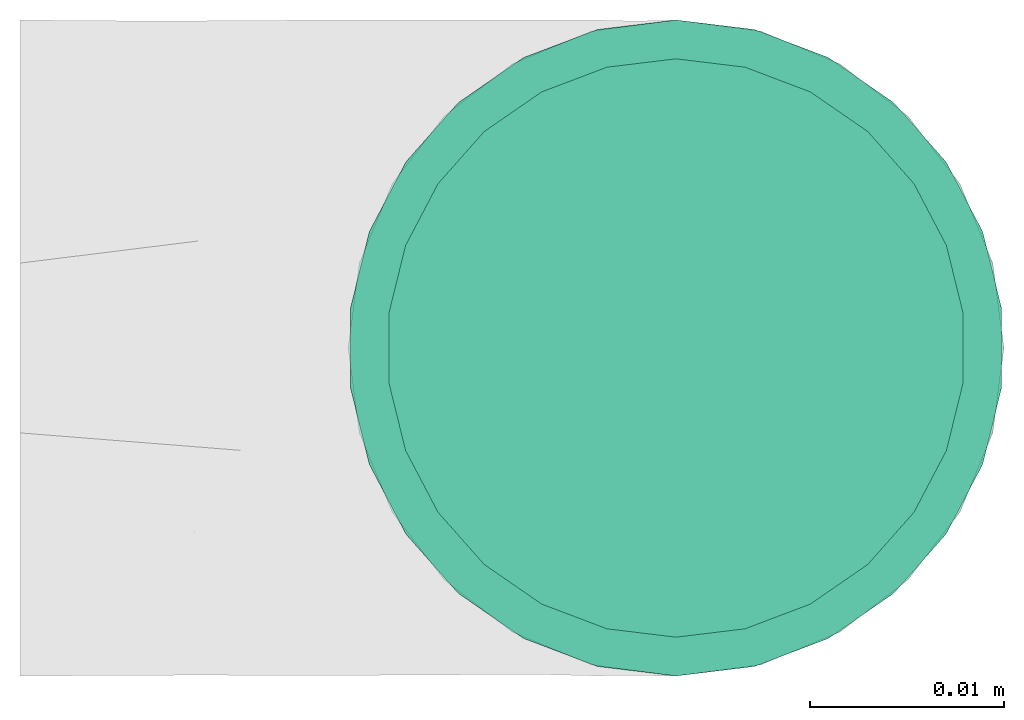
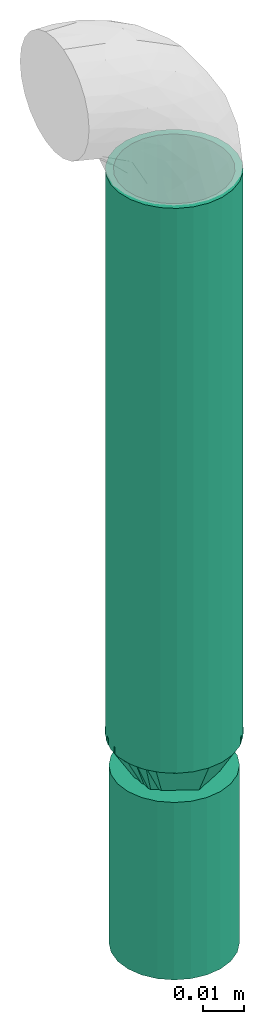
# One storey, part 1 of 2: 1 flow fitting, 1 flow segment, 1 flow terminal.
"""IFC2X3 building model written with IfcOpenShell, lengths in millimetres."""

from ifc_helpers import new_model, entity, si_unit, converted_unit, derived_unit, direction, frame, origin_with_axes, origin_2d_with_axis, place, context, subcontext, project, spatial, hollow_circle, extrude, open_shell, surface_model, source, transform, mapped, type_object, element, save


model = new_model("IFC2X3")

# Units and contexts
model_context = context("Model", 3, precision=0.01, world=frame((0.0, 4.29681676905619e-09, 0.0)), true_north=direction((4.01073788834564e-13, 1.0)))
plan_context = context("Plan", 3, precision=0.01, world=frame((0.0, 4.29681676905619e-09, 0.0)), true_north=direction((4.01073788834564e-13, 1.0)))
body_context = subcontext(model_context, "Body", "Model", "MODEL_VIEW")
ifc_project = project(units=[converted_unit("PLANEANGLEUNIT", "DEGREE", entity("IfcPositiveLengthMeasure", 0.0174532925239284), si_unit("PLANEANGLEUNIT", "RADIAN"), dimensions=[0, 0, 0, 0, 0, 0, 0]), si_unit("AREAUNIT", "SQUARE_METRE"), si_unit("LENGTHUNIT", "METRE", prefix="MILLI"), si_unit("MASSUNIT", "GRAM", prefix="KILO"), si_unit("POWERUNIT", "WATT"), si_unit("PRESSUREUNIT", "PASCAL"), si_unit("FORCEUNIT", "NEWTON", prefix="KILO"), si_unit("ELECTRICVOLTAGEUNIT", "VOLT"), si_unit("ELECTRICCURRENTUNIT", "AMPERE"), si_unit("THERMODYNAMICTEMPERATUREUNIT", "DEGREE_CELSIUS"), si_unit("TIMEUNIT", "SECOND"), si_unit("VOLUMEUNIT", "CUBIC_METRE"), derived_unit("LINEARVELOCITYUNIT", [(si_unit("LENGTHUNIT", "METRE"), 1), (si_unit("TIMEUNIT", "SECOND"), -1)]), derived_unit("VOLUMETRICFLOWRATEUNIT", [(si_unit("VOLUMEUNIT", "CUBIC_METRE"), 1), (si_unit("TIMEUNIT", "SECOND"), -1)]), derived_unit("THERMALTRANSMITTANCEUNIT", [(si_unit("POWERUNIT", "WATT"), 1), (si_unit("THERMODYNAMICTEMPERATUREUNIT", "KELVIN"), -1), (si_unit("AREAUNIT", "SQUARE_METRE"), -1)]), derived_unit("SOUNDPRESSUREUNIT", [(si_unit("PRESSUREUNIT", "PASCAL"), 1)])], contexts=[model_context, plan_context])

# Site, building, storey
site_placement = place(None, frame((0.0, -4.29681676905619e-09, 0.0), z_axis=(0.0, 0.0, 1.0), x_axis=(1.0, 0.0, 0.0)))
site = spatial("IfcSite", under=ifc_project, at=site_placement, CompositionType="ELEMENT")
building_placement = place(site_placement, frame((0.0, 4.29681676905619e-09, 0.0), z_axis=(0.0, 0.0, 1.0), x_axis=(1.0, 0.0, 0.0)))
building = spatial("IfcBuilding", under=site, at=building_placement, Name="mc-building", CompositionType="ELEMENT")
storey_placement = place(building_placement, frame((0.0, 0.0, 210200.0), z_axis=(0.0, 0.0, 1.0), x_axis=(1.0, 0.0, 0.0)))
storey = spatial("IfcBuildingStorey", under=building, at=storey_placement, Name="Nivå F -0,7", CompositionType="ELEMENT", Elevation=210200.0)

# Flow fitting
pipe_fitting_type = type_object("IfcPipeFittingType", Name="magi_pipe_fe_reducer_centric_short_NOR", PredefinedType="TRANSITION")
shared_shape_1 = source(origin_with_axes(), body_context, "Body", "SurfaceModel", [
    surface_model("IfcShellBasedSurfaceModel", [(14.4, 4.37404, -16.32415), (14.4, 8.45, -14.63583), (14.4, 11.9501, -11.9501), (14.4, -8.45, -14.63583), (14.4, 16.32415, -4.37404), (14.4, 16.32415, 4.37404), (14.4, 14.63583, -8.45), (14.4, 0.0, -16.9), (14.4, -4.37404, -16.32415), (14.4, -11.9501, -11.9501), (14.4, -16.32415, -4.37404), (14.4, -14.63583, -8.45), (14.4, -16.32415, 4.37404), (14.4, 16.9, 0.0), (14.4, 14.63583, 8.45), (14.4, 11.9501, 11.9501), (14.4, 4.37404, 16.32415), (14.4, 8.45, 14.63583), (14.4, 0.0, 16.9), (14.4, -14.63583, 8.45), (14.4, -16.9, 0.0), (14.4, -8.45, 14.63583), (14.4, -11.9501, 11.9501), (14.4, -4.37404, 16.32415), (12.4, 4.37404, 16.32415), (12.4, -14.63583, 8.45), (12.4, 0.0, 16.9), (12.4, 16.32415, 4.37404), (12.4, 8.45, 14.63583), (12.4, 11.9501, 11.9501), (12.4, 14.63583, 8.45), (12.4, -8.45, 14.63583), (12.4, -11.9501, 11.9501), (12.4, -4.37404, 16.32415), (12.4, -16.32415, 4.37404), (12.4, -16.32415, -4.37404), (12.4, -16.9, 0.0), (12.4, -8.45, -14.63583), (12.4, 16.32415, -4.37404), (12.4, 11.9501, -11.9501), (12.4, 14.63583, -8.45), (12.4, 8.45, -14.63583), (12.4, 4.37404, -16.32415), (12.4, 0.0, -16.9), (12.4, -11.9501, -11.9501), (12.4, -14.63583, -8.45), (12.4, -4.37404, -16.32415), (12.4, 16.9, 0.0), (-2.0, 10.33541, 2.76936), (-2.0, 0.0, 10.7), (-2.0, 2.76936, 10.33541), (-2.0, 7.56604, 7.56604), (-2.0, 5.35, 9.26647), (-2.0, 9.26647, 5.35), (-2.0, -9.26647, 5.35), (-2.0, -2.76936, 10.33541), (-2.0, -7.56604, 7.56604), (-2.0, -5.35, 9.26647), (-2.0, -10.33541, 2.76936), (-2.0, -10.33541, -2.76936), (-2.0, -10.7, 0.0), (-2.0, 10.33541, -2.76936), (-2.0, 7.56604, -7.56604), (-2.0, 9.26647, -5.35), (-2.0, 5.35, -9.26647), (-2.0, -5.35, -9.26647), (-2.0, 2.76936, -10.33541), (-2.0, -7.56604, -7.56604), (-2.0, -9.26647, -5.35), (-2.0, 0.0, -10.7), (-2.0, -2.76936, -10.33541), (-2.0, 10.7, 0.0), (0.0, 5.35, -9.26647), (0.0, 0.0, -10.7), (0.0, 2.76936, -10.33541), (0.0, 10.33541, -2.76936), (0.0, 7.56604, -7.56604), (0.0, -5.35, -9.26647), (0.0, 9.26647, -5.35), (0.0, -9.26647, 5.35), (0.0, -2.76936, -10.33541), (0.0, -7.56604, -7.56604), (0.0, -10.33541, -2.76936), (0.0, -9.26647, -5.35), (0.0, 10.33541, 2.76936), (0.0, 10.7, 0.0), (0.0, 9.26647, 5.35), (0.0, 7.56604, 7.56604), (0.0, 2.76936, 10.33541), (0.0, 0.0, 10.7), (0.0, 5.35, 9.26647), (0.0, -10.33541, 2.76936), (0.0, -10.7, 0.0), (0.0, -7.56604, 7.56604), (0.0, -2.76936, 10.33541), (0.0, -5.35, 9.26647), (0.0, -9.3625, -2.31662), (12.4, -14.42505, -5.97505), (12.4, -15.66253, -2.98753), (0.0, 6.6875, -6.94985), (12.4, 8.96258, -13.18758), (0.0, -6.6875, -6.94985), (12.4, -8.96258, -13.18758), (0.0, 9.3625, -2.31662), (12.4, 15.66253, -2.98753), (12.4, 14.42505, -5.97505), (12.4, -5.97505, -14.42505), (12.4, 5.97505, -14.42505), (0.0, 2.675, -9.26647), (12.4, 13.18758, -8.96258), (0.0, -2.675, -9.26647), (12.4, -13.18758, -8.96258), (0.0, -8.025, -4.63324), (12.4, 2.98753, -15.66253), (0.0, 0.0, -9.26647), (12.4, -2.98753, -15.66253), (0.0, 8.025, -4.63324), (0.0, 9.3625, 2.31662), (12.4, 14.42505, 5.97505), (12.4, 15.66253, 2.98753), (0.0, -6.6875, 6.94985), (12.4, -8.96258, 13.18758), (0.0, 6.6875, 6.94985), (12.4, 8.96258, 13.18758), (0.0, -9.3625, 2.31662), (12.4, -15.66253, 2.98753), (12.4, -14.42505, 5.97505), (12.4, 5.97505, 14.42505), (12.4, -5.97505, 14.42505), (0.0, -2.675, 9.26647), (12.4, -13.18758, 8.96258), (0.0, 2.675, 9.26647), (12.4, 13.18758, 8.96258), (0.0, 8.025, 4.63324), (12.4, -2.98753, 15.66253), (0.0, 0.0, 9.26647), (12.4, 2.98753, 15.66253), (0.0, -8.025, 4.63324)], [open_shell([[[0, 1, 2]], [[3, 0, 2]], [[2, 4, 5]], [[4, 2, 6]], [[2, 5, 3]], [[7, 3, 8]], [[7, 0, 3]], [[9, 10, 11]], [[10, 9, 3]], [[3, 12, 10]], [[5, 4, 13]], [[5, 14, 15]], [[5, 15, 16]], [[16, 12, 3]], [[16, 15, 17]], [[12, 16, 18]], [[18, 19, 12]], [[20, 10, 12]], [[19, 21, 22]], [[19, 18, 21]], [[21, 18, 23]], [[3, 5, 16]], [[24, 25, 26]], [[27, 24, 28]], [[29, 30, 27]], [[29, 27, 28]], [[25, 24, 27]], [[31, 25, 32]], [[31, 33, 26]], [[26, 25, 31]], [[34, 25, 27]], [[34, 35, 36]], [[34, 27, 37]], [[27, 38, 39]], [[39, 38, 40]], [[39, 41, 42]], [[37, 27, 39]], [[42, 43, 39]], [[35, 44, 45]], [[44, 35, 37]], [[37, 43, 46]], [[35, 34, 37]], [[39, 43, 37]], [[38, 27, 47]], [[35, 10, 36]], [[45, 11, 35]], [[3, 44, 37]], [[45, 44, 9]], [[8, 37, 46]], [[35, 11, 10]], [[10, 20, 36]], [[8, 3, 37]], [[9, 44, 3]], [[9, 11, 45]], [[7, 8, 46]], [[46, 43, 7]], [[42, 0, 43]], [[41, 1, 42]], [[6, 39, 40]], [[41, 39, 2]], [[4, 40, 38]], [[41, 2, 1]], [[1, 0, 42]], [[13, 4, 38]], [[6, 40, 4]], [[6, 2, 39]], [[47, 13, 38]], [[43, 0, 7]], [[27, 5, 47]], [[30, 14, 27]], [[17, 29, 28]], [[30, 29, 15]], [[16, 28, 24]], [[27, 14, 5]], [[5, 13, 47]], [[16, 17, 28]], [[15, 29, 17]], [[15, 14, 30]], [[18, 16, 24]], [[24, 26, 18]], [[33, 23, 26]], [[31, 21, 33]], [[19, 32, 25]], [[31, 32, 22]], [[12, 25, 34]], [[31, 22, 21]], [[21, 23, 33]], [[20, 12, 34]], [[19, 25, 12]], [[19, 22, 32]], [[36, 20, 34]], [[26, 23, 18]], [[48, 49, 50]], [[51, 50, 52]], [[51, 53, 48]], [[51, 48, 50]], [[49, 48, 54]], [[55, 56, 57]], [[56, 55, 54]], [[58, 59, 60]], [[54, 55, 49]], [[58, 54, 59]], [[54, 48, 61]], [[59, 54, 61]], [[62, 61, 63]], [[59, 62, 64]], [[61, 62, 59]], [[65, 64, 66]], [[59, 67, 68]], [[67, 59, 65]], [[65, 69, 70]], [[65, 59, 64]], [[66, 69, 65]], [[61, 48, 71]], [[72, 73, 74]], [[75, 72, 76]], [[77, 72, 75]], [[75, 76, 78]], [[79, 77, 75]], [[73, 77, 80]], [[73, 72, 77]], [[81, 82, 83]], [[82, 81, 77]], [[77, 79, 82]], [[84, 75, 85]], [[84, 86, 87]], [[75, 87, 79]], [[88, 89, 87]], [[88, 87, 90]], [[79, 87, 89]], [[82, 91, 92]], [[79, 91, 82]], [[93, 94, 95]], [[94, 93, 79]], [[89, 94, 79]], [[75, 84, 87]], [[59, 82, 60]], [[68, 83, 59]], [[77, 67, 65]], [[68, 67, 81]], [[80, 65, 70]], [[59, 83, 82]], [[82, 92, 60]], [[80, 77, 65]], [[81, 67, 77]], [[81, 83, 68]], [[73, 80, 70]], [[70, 69, 73]], [[66, 74, 69]], [[64, 72, 66]], [[78, 62, 63]], [[64, 62, 76]], [[75, 63, 61]], [[64, 76, 72]], [[72, 74, 66]], [[85, 75, 61]], [[78, 63, 75]], [[78, 76, 62]], [[71, 85, 61]], [[69, 74, 73]], [[48, 84, 71]], [[53, 86, 48]], [[90, 51, 52]], [[53, 51, 87]], [[88, 52, 50]], [[48, 86, 84]], [[84, 85, 71]], [[88, 90, 52]], [[87, 51, 90]], [[87, 86, 53]], [[89, 88, 50]], [[50, 49, 89]], [[55, 94, 49]], [[57, 95, 55]], [[79, 56, 54]], [[57, 56, 93]], [[91, 54, 58]], [[57, 93, 95]], [[95, 94, 55]], [[92, 91, 58]], [[79, 54, 91]], [[79, 93, 56]], [[60, 92, 58]], [[49, 94, 89]], [[29, 26, 39]], [[39, 47, 29]], [[36, 26, 32]], [[36, 44, 43]], [[43, 39, 36]], [[36, 39, 26]], [[92, 95, 77]], [[85, 95, 90]], [[85, 72, 77]], [[85, 77, 95]], [[96, 97, 98]], [[92, 96, 98]], [[99, 100, 72]], [[98, 36, 92]], [[44, 101, 102]], [[101, 77, 102]], [[103, 104, 105]], [[85, 47, 104]], [[77, 106, 102]], [[107, 108, 72]], [[109, 39, 99]], [[106, 77, 110]], [[101, 111, 112]], [[113, 114, 108]], [[100, 99, 39]], [[110, 115, 106]], [[99, 116, 109]], [[100, 107, 72]], [[96, 112, 97]], [[105, 116, 103]], [[85, 104, 103]], [[108, 107, 113]], [[113, 43, 114]], [[116, 105, 109]], [[114, 115, 110]], [[43, 115, 114]], [[111, 101, 44]], [[111, 97, 112]], [[117, 118, 119]], [[85, 117, 119]], [[120, 121, 95]], [[119, 47, 85]], [[29, 122, 123]], [[122, 90, 123]], [[124, 125, 126]], [[92, 36, 125]], [[90, 127, 123]], [[128, 129, 95]], [[130, 32, 120]], [[127, 90, 131]], [[122, 132, 133]], [[134, 135, 129]], [[121, 120, 32]], [[131, 136, 127]], [[120, 137, 130]], [[121, 128, 95]], [[117, 133, 118]], [[126, 137, 124]], [[92, 125, 124]], [[129, 128, 134]], [[134, 26, 135]], [[137, 126, 130]], [[135, 136, 131]], [[26, 136, 135]], [[132, 122, 29]], [[132, 118, 133]]])]),
])
flow_fitting_placement = place(storey_placement, frame((610704.75803, 691395.18624, 3007.60000000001), z_axis=(1.0, 0.0, 0.0), x_axis=(0.0, 0.0, 1.0)))
element("IfcFlowFitting", 1, at=flow_fitting_placement, inside=storey, type_object=pipe_fitting_type, Name="magi_pipe_fe_reducer_centric_short_NOR", context=body_context, shape_type="MappedRepresentation", body=[
    mapped(shared_shape_1, transform((0.0, 0.0, 0.0), scale=1.0)),
])

# Flow segment
pipe_segment_type = type_object("IfcPipeSegmentType", Name="Stålrør normaltykke", PredefinedType="RIGIDSEGMENT")
shared_shape_2 = source(origin_with_axes(), body_context, "Body", "SweptSolid", [
    extrude(hollow_circle(Radius=16.9, WallThickness=2.0, at=origin_2d_with_axis()), frame((0.0, 0.0, 0.0), z_axis=(1.0, 0.0, 0.0), x_axis=(0.0, 1.0, 0.0)), (0.0, 0.0, 1.0), 168.7),
])
flow_segment_placement = place(storey_placement, frame((610704.75803, 691395.18624, 3020.0), z_axis=(1.0, 0.0, 0.0), x_axis=(0.0, 0.0, 1.0)))
element("IfcFlowSegment", 2, at=flow_segment_placement, inside=storey, type_object=pipe_segment_type, Name="Stålrør normaltykke", context=body_context, shape_type="MappedRepresentation", body=[
    mapped(shared_shape_2, transform((0.0, 0.0, 0.0), scale=1.0)),
])

# Flow terminal
fire_suppression_terminal_type = type_object("IfcFireSuppressionTerminalType", Name="SP-15-K80-68DGR-STD-HIMLING", PredefinedType="NOTDEFINED")
shared_shape_3 = source(origin_with_axes(), body_context, "Body", "SurfaceModel", [
    surface_model("IfcShellBasedSurfaceModel", [(4.1411, -15.45481, 53.0), (8.0, -13.85641, 53.0), (11.31371, -11.31371, 53.0), (-8.0, -13.85641, 53.0), (15.45481, -4.1411, 53.0), (16.0, 0.0, 53.0), (13.85641, -8.0, 53.0), (0.0, -16.0, 53.0), (-4.1411, -15.45481, 53.0), (-13.85641, -8.0, 53.0), (-11.31371, -11.31371, 53.0), (-15.45481, -4.1411, 53.0), (15.45481, 4.1411, 53.0), (13.85641, 8.0, 53.0), (11.31371, 11.31371, 53.0), (-4.1411, 15.45481, 53.0), (8.0, 13.85641, 53.0), (4.1411, 15.45481, 53.0), (0.0, 16.0, 53.0), (-13.85641, 8.0, 53.0), (-15.45481, 4.1411, 53.0), (-16.0, 0.0, 53.0), (-11.31371, 11.31371, 53.0), (-8.0, 13.85641, 53.0), (0.0, 16.0, 0.0), (4.1411, 15.45481, 0.0), (8.0, 13.85641, 0.0), (-4.1411, 15.45481, 0.0), (11.31371, 11.31371, 0.0), (13.85641, 8.0, 0.0), (15.45481, 4.1411, 0.0), (-15.45481, -4.1411, 0.0), (-11.31371, 11.31371, 0.0), (-8.0, 13.85641, 0.0), (-13.85641, 8.0, 0.0), (-15.45481, 4.1411, 0.0), (-16.0, 0.0, 0.0), (4.1411, -15.45481, 0.0), (16.0, 0.0, 0.0), (15.45481, -4.1411, 0.0), (13.85641, -8.0, 0.0), (11.31371, -11.31371, 0.0), (8.0, -13.85641, 0.0), (-8.0, -13.85641, 0.0), (-13.85641, -8.0, 0.0), (-11.31371, -11.31371, 0.0), (0.0, -16.0, 0.0), (-4.1411, -15.45481, 0.0)], [open_shell([[[0, 1, 2]], [[3, 0, 2]], [[4, 5, 2]], [[4, 2, 6]], [[3, 2, 5]], [[7, 3, 8]], [[7, 0, 3]], [[3, 9, 10]], [[9, 3, 11]], [[5, 11, 3]], [[5, 12, 11]], [[12, 13, 14]], [[15, 12, 14]], [[16, 17, 18]], [[14, 16, 15]], [[18, 15, 16]], [[11, 19, 20]], [[21, 11, 20]], [[22, 15, 23]], [[15, 22, 19]], [[19, 11, 15]], [[11, 12, 15]], [[24, 25, 26]], [[27, 24, 26]], [[28, 29, 30]], [[27, 26, 28]], [[27, 28, 31]], [[27, 32, 33]], [[32, 27, 34]], [[34, 31, 35]], [[31, 34, 27]], [[35, 31, 36]], [[28, 30, 31]], [[37, 38, 39]], [[37, 39, 40]], [[41, 42, 37]], [[41, 37, 40]], [[38, 37, 43]], [[44, 43, 45]], [[43, 44, 31]], [[43, 46, 47]], [[43, 31, 38]], [[37, 46, 43]], [[38, 31, 30]], [[11, 31, 44]], [[45, 9, 44]], [[3, 43, 47]], [[45, 43, 10]], [[8, 47, 46]], [[31, 21, 36]], [[31, 11, 21]], [[44, 9, 11]], [[45, 10, 9]], [[3, 10, 43]], [[47, 8, 3]], [[46, 7, 8]], [[0, 37, 42]], [[41, 1, 42]], [[6, 40, 39]], [[41, 40, 2]], [[4, 39, 38]], [[37, 0, 7]], [[42, 1, 0]], [[41, 2, 1]], [[40, 6, 2]], [[4, 6, 39]], [[38, 5, 4]], [[37, 7, 46]], [[12, 38, 30]], [[13, 30, 29]], [[16, 26, 25]], [[17, 25, 24]], [[30, 13, 12]], [[12, 5, 38]], [[28, 14, 13]], [[28, 26, 14]], [[14, 26, 16]], [[25, 17, 16]], [[28, 13, 29]], [[24, 18, 17]], [[15, 27, 33]], [[32, 23, 33]], [[19, 34, 35]], [[32, 34, 22]], [[20, 35, 36]], [[27, 15, 18]], [[33, 23, 15]], [[32, 22, 23]], [[34, 19, 22]], [[20, 19, 35]], [[36, 21, 20]], [[27, 18, 24]]])]),
])
flow_terminal_placement = place(storey_placement, frame((610704.75803, 691395.18624, 3010.64799999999), z_axis=(0.0, 0.0, -1.0), x_axis=(1.0, 0.0, 0.0)))
element("IfcFlowTerminal", 3, at=flow_terminal_placement, inside=storey, type_object=fire_suppression_terminal_type, Name="SP-15-K80-68DGR-STD-HIMLING", context=body_context, shape_type="MappedRepresentation", body=[
    mapped(shared_shape_3, transform((0.0, 0.0, 0.0), scale=1.0)),
])

save(model, "model.ifc")
